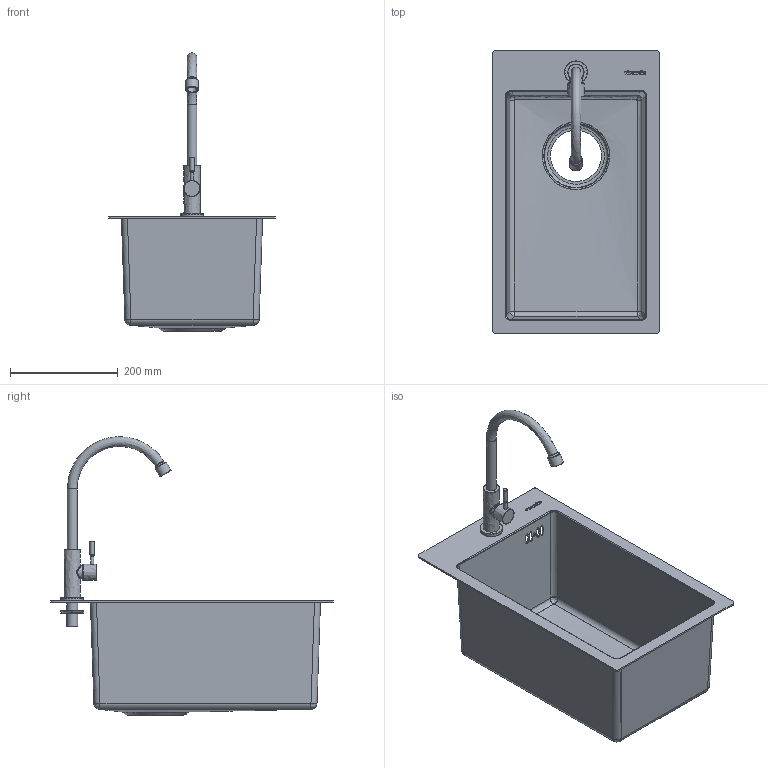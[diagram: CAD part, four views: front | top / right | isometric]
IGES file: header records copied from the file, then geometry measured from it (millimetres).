
Global section: file name: SA3-MBk.0; native system: unknown; preprocessor: unknown; author: unknown; organization: unknown; date: 20260225.160435; units: millimetre
Bounding box: 310 x 525 x 517.14 mm (x, y, z)
Volume: 890686.9 mm3; surface area: 864712.9 mm2
Topology: 4 solids, 4 shells, 276 faces, 764 edges, 505 vertices
Faces by surface type: bspline 276
